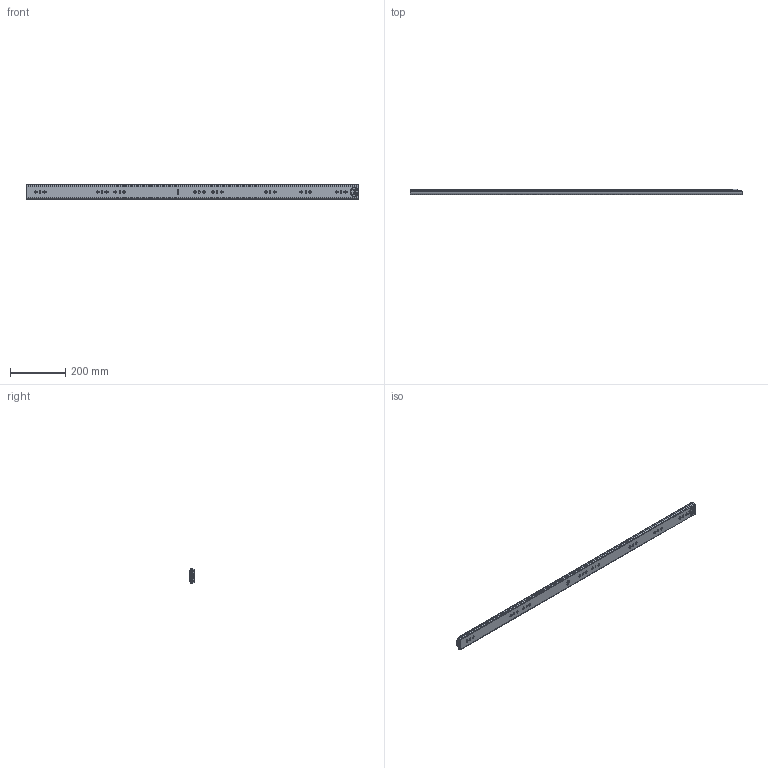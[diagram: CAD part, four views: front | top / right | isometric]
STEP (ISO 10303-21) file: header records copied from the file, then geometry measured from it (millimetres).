
FILE_DESCRIPTION((''),'2;1');
FILE_NAME('1053-02-48_ASM','2022-08-16T',('jishu015'),(''),'PRO/ENGINEER BY PARAMETRIC TECHNOLOGY CORPORATION, 2010280','PRO/ENGINEER BY PARAMETRIC TECHNOLOGY CORPORATION, 2010280','');
FILE_SCHEMA(('CONFIG_CONTROL_DESIGN'));
Products named in the file (16): 1053-02-48WAIKE; 1053WEIJIAO________; 53-WAIKEJIAO-48; 1053-02-48WAIKE_ASM; 1053ZHUTIAO-175________; 53-5-6GANZHU________; 1053ZHUTIAO-175MM_________ASM; 1053-02-18ZHONGGUI________; 53ZHIDIJIAO________; 1053-02-18ZHONGGUI_________ASM; 1053XIAOZHUJIA-14GE________; 1053XIAOZHUJIA-14GE_________ASM; 1053-02-18NEIGUI________; 53BACHA_______; 1053-02-18NEIGUI_________ASM; 1053-02-48_ASM
Assembly tree (129 placements, depth 3):
  1053-02-48_ASM
    1053-02-48WAIKE_ASM
      1053-02-48WAIKE
      1053WEIJIAO________
      53-WAIKEJIAO-48
    1053ZHUTIAO-175MM_________ASM  x2
      1053ZHUTIAO-175________
      53-5-6GANZHU________
    1053-02-18ZHONGGUI_________ASM
      1053-02-18ZHONGGUI________
      53ZHIDIJIAO________
    1053XIAOZHUJIA-14GE_________ASM
      1053XIAOZHUJIA-14GE________
      53-5-6GANZHU________  x92
    1053-02-18NEIGUI_________ASM
      1053-02-18NEIGUI________
      53BACHA_______
Bounding box: 1200 x 18.7 x 53 mm (x, y, z)
Volume: 457931.7 mm3; surface area: 528683 mm2
Topology: 146 solids, 152 shells, 3440 faces, 10019 edges, 6223 vertices
Faces by surface type: cylinder 1542, plane 1316, sphere 290, cone 140, bspline 118, torus 34
Entity records: 107966 total; most frequent: CARTESIAN_POINT 25285, ORIENTED_EDGE 17406, DIRECTION 17228, EDGE_CURVE 8775, AXIS2_PLACEMENT_3D 6021, VERTEX_POINT 5673, VECTOR 5186, LINE 5186
